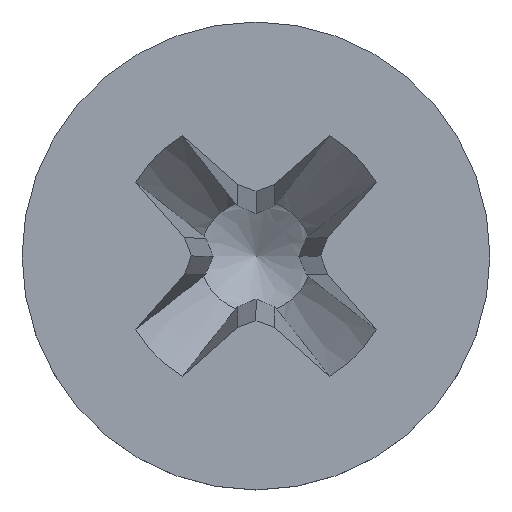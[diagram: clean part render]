
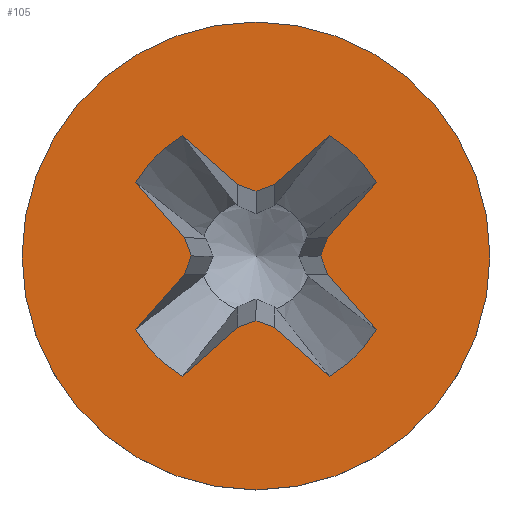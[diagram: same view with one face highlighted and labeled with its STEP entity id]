
A CAD part, top view. The second image highlights one B-rep face of the part: STEP entity #105.
In plain terms, the highlighted planar face has unit normal (0, 0, 1).
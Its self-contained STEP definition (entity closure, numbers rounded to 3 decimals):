
#21 = EDGE_CURVE('',#22,#22,#24,.T.);
#22 = VERTEX_POINT('',#23);
#23 = CARTESIAN_POINT('',(2.65,0.,0.));
#24 = CIRCLE('',#25,2.65);
#25 = AXIS2_PLACEMENT_3D('',#26,#27,#28);
#26 = CARTESIAN_POINT('',(0.,0.,0.));
#27 = DIRECTION('',(0.,0.,1.));
#28 = DIRECTION('',(1.,0.,0.));
#105 = ADVANCED_FACE('',(#106,#109),#275,.T.);
#106 = FACE_BOUND('',#107,.T.);
#107 = EDGE_LOOP('',(#108));
#108 = ORIENTED_EDGE('',*,*,#21,.T.);
#109 = FACE_BOUND('',#110,.T.);
#110 = EDGE_LOOP('',(#111,#121,#129,#137,#145,#154,#162,#170,#178,#186,
    #195,#203,#211,#219,#227,#236,#244,#252,#260,#268));
#111 = ORIENTED_EDGE('',*,*,#112,.T.);
#112 = EDGE_CURVE('',#113,#115,#117,.T.);
#113 = VERTEX_POINT('',#114);
#114 = CARTESIAN_POINT('',(0.835,-1.365,
    0.));
#115 = VERTEX_POINT('',#116);
#116 = CARTESIAN_POINT('',(0.205,-0.811,0.));
#117 = LINE('',#118,#119);
#118 = CARTESIAN_POINT('',(0.565,-1.127,0.));
#119 = VECTOR('',#120,1.);
#120 = DIRECTION('',(-0.751,0.661,0.));
#121 = ORIENTED_EDGE('',*,*,#122,.T.);
#122 = EDGE_CURVE('',#115,#123,#125,.T.);
#123 = VERTEX_POINT('',#124);
#124 = CARTESIAN_POINT('',(0.,-0.732,0.));
#125 = LINE('',#126,#127);
#126 = CARTESIAN_POINT('',(-0.077,-0.703,0.));
#127 = VECTOR('',#128,1.);
#128 = DIRECTION('',(-0.934,0.356,0.));
#129 = ORIENTED_EDGE('',*,*,#130,.T.);
#130 = EDGE_CURVE('',#123,#131,#133,.T.);
#131 = VERTEX_POINT('',#132);
#132 = CARTESIAN_POINT('',(-0.205,-0.811,0.));
#133 = LINE('',#134,#135);
#134 = CARTESIAN_POINT('',(0.077,-0.703,0.));
#135 = VECTOR('',#136,1.);
#136 = DIRECTION('',(-0.934,-0.356,0.));
#137 = ORIENTED_EDGE('',*,*,#138,.T.);
#138 = EDGE_CURVE('',#131,#139,#141,.T.);
#139 = VERTEX_POINT('',#140);
#140 = CARTESIAN_POINT('',(-0.835,-1.365,
    0.));
#141 = LINE('',#142,#143);
#142 = CARTESIAN_POINT('',(-0.565,-1.127,0.));
#143 = VECTOR('',#144,1.);
#144 = DIRECTION('',(-0.751,-0.661,0.));
#145 = ORIENTED_EDGE('',*,*,#146,.T.);
#146 = EDGE_CURVE('',#139,#147,#149,.T.);
#147 = VERTEX_POINT('',#148);
#148 = CARTESIAN_POINT('',(-1.365,-0.835,
    0.));
#149 = CIRCLE('',#150,1.6);
#150 = AXIS2_PLACEMENT_3D('',#151,#152,#153);
#151 = CARTESIAN_POINT('',(0.,0.,0.));
#152 = DIRECTION('',(0.,0.,-1.));
#153 = DIRECTION('',(1.,0.,0.));
#154 = ORIENTED_EDGE('',*,*,#155,.T.);
#155 = EDGE_CURVE('',#147,#156,#158,.T.);
#156 = VERTEX_POINT('',#157);
#157 = CARTESIAN_POINT('',(-0.811,-0.205,0.));
#158 = LINE('',#159,#160);
#159 = CARTESIAN_POINT('',(-1.127,-0.565,0.));
#160 = VECTOR('',#161,1.);
#161 = DIRECTION('',(0.661,0.751,0.));
#162 = ORIENTED_EDGE('',*,*,#163,.T.);
#163 = EDGE_CURVE('',#156,#164,#166,.T.);
#164 = VERTEX_POINT('',#165);
#165 = CARTESIAN_POINT('',(-0.732,0.,0.));
#166 = LINE('',#167,#168);
#167 = CARTESIAN_POINT('',(-0.703,0.077,0.));
#168 = VECTOR('',#169,1.);
#169 = DIRECTION('',(0.356,0.934,0.));
#170 = ORIENTED_EDGE('',*,*,#171,.T.);
#171 = EDGE_CURVE('',#164,#172,#174,.T.);
#172 = VERTEX_POINT('',#173);
#173 = CARTESIAN_POINT('',(-0.811,0.205,0.));
#174 = LINE('',#175,#176);
#175 = CARTESIAN_POINT('',(-0.703,-0.077,0.));
#176 = VECTOR('',#177,1.);
#177 = DIRECTION('',(-0.356,0.934,0.));
#178 = ORIENTED_EDGE('',*,*,#179,.T.);
#179 = EDGE_CURVE('',#172,#180,#182,.T.);
#180 = VERTEX_POINT('',#181);
#181 = CARTESIAN_POINT('',(-1.365,0.835,
    0.));
#182 = LINE('',#183,#184);
#183 = CARTESIAN_POINT('',(-1.127,0.565,0.));
#184 = VECTOR('',#185,1.);
#185 = DIRECTION('',(-0.661,0.751,0.));
#186 = ORIENTED_EDGE('',*,*,#187,.T.);
#187 = EDGE_CURVE('',#180,#188,#190,.T.);
#188 = VERTEX_POINT('',#189);
#189 = CARTESIAN_POINT('',(-0.835,1.365,0.));
#190 = CIRCLE('',#191,1.6);
#191 = AXIS2_PLACEMENT_3D('',#192,#193,#194);
#192 = CARTESIAN_POINT('',(0.,0.,0.));
#193 = DIRECTION('',(0.,0.,-1.));
#194 = DIRECTION('',(1.,0.,0.));
#195 = ORIENTED_EDGE('',*,*,#196,.T.);
#196 = EDGE_CURVE('',#188,#197,#199,.T.);
#197 = VERTEX_POINT('',#198);
#198 = CARTESIAN_POINT('',(-0.205,0.811,0.));
#199 = LINE('',#200,#201);
#200 = CARTESIAN_POINT('',(-0.565,1.127,0.));
#201 = VECTOR('',#202,1.);
#202 = DIRECTION('',(0.751,-0.661,0.));
#203 = ORIENTED_EDGE('',*,*,#204,.T.);
#204 = EDGE_CURVE('',#197,#205,#207,.T.);
#205 = VERTEX_POINT('',#206);
#206 = CARTESIAN_POINT('',(0.,0.732,0.));
#207 = LINE('',#208,#209);
#208 = CARTESIAN_POINT('',(0.077,0.703,0.));
#209 = VECTOR('',#210,1.);
#210 = DIRECTION('',(0.934,-0.356,0.));
#211 = ORIENTED_EDGE('',*,*,#212,.T.);
#212 = EDGE_CURVE('',#205,#213,#215,.T.);
#213 = VERTEX_POINT('',#214);
#214 = CARTESIAN_POINT('',(0.205,0.811,0.));
#215 = LINE('',#216,#217);
#216 = CARTESIAN_POINT('',(-0.077,0.703,0.));
#217 = VECTOR('',#218,1.);
#218 = DIRECTION('',(0.934,0.356,0.));
#219 = ORIENTED_EDGE('',*,*,#220,.T.);
#220 = EDGE_CURVE('',#213,#221,#223,.T.);
#221 = VERTEX_POINT('',#222);
#222 = CARTESIAN_POINT('',(0.835,1.365,
    0.));
#223 = LINE('',#224,#225);
#224 = CARTESIAN_POINT('',(0.565,1.127,0.));
#225 = VECTOR('',#226,1.);
#226 = DIRECTION('',(0.751,0.661,0.));
#227 = ORIENTED_EDGE('',*,*,#228,.T.);
#228 = EDGE_CURVE('',#221,#229,#231,.T.);
#229 = VERTEX_POINT('',#230);
#230 = CARTESIAN_POINT('',(1.365,0.835,
    0.));
#231 = CIRCLE('',#232,1.6);
#232 = AXIS2_PLACEMENT_3D('',#233,#234,#235);
#233 = CARTESIAN_POINT('',(0.,0.,0.));
#234 = DIRECTION('',(0.,0.,-1.));
#235 = DIRECTION('',(1.,0.,0.));
#236 = ORIENTED_EDGE('',*,*,#237,.T.);
#237 = EDGE_CURVE('',#229,#238,#240,.T.);
#238 = VERTEX_POINT('',#239);
#239 = CARTESIAN_POINT('',(0.811,0.205,0.));
#240 = LINE('',#241,#242);
#241 = CARTESIAN_POINT('',(1.127,0.565,0.));
#242 = VECTOR('',#243,1.);
#243 = DIRECTION('',(-0.661,-0.751,0.));
#244 = ORIENTED_EDGE('',*,*,#245,.T.);
#245 = EDGE_CURVE('',#238,#246,#248,.T.);
#246 = VERTEX_POINT('',#247);
#247 = CARTESIAN_POINT('',(0.732,0.,0.));
#248 = LINE('',#249,#250);
#249 = CARTESIAN_POINT('',(0.703,-0.077,
    0.));
#250 = VECTOR('',#251,1.);
#251 = DIRECTION('',(-0.356,-0.934,0.));
#252 = ORIENTED_EDGE('',*,*,#253,.T.);
#253 = EDGE_CURVE('',#246,#254,#256,.T.);
#254 = VERTEX_POINT('',#255);
#255 = CARTESIAN_POINT('',(0.811,-0.205,0.));
#256 = LINE('',#257,#258);
#257 = CARTESIAN_POINT('',(0.703,0.077,
    0.));
#258 = VECTOR('',#259,1.);
#259 = DIRECTION('',(0.356,-0.934,0.));
#260 = ORIENTED_EDGE('',*,*,#261,.T.);
#261 = EDGE_CURVE('',#254,#262,#264,.T.);
#262 = VERTEX_POINT('',#263);
#263 = CARTESIAN_POINT('',(1.365,-0.835,
    0.));
#264 = LINE('',#265,#266);
#265 = CARTESIAN_POINT('',(1.127,-0.565,0.));
#266 = VECTOR('',#267,1.);
#267 = DIRECTION('',(0.661,-0.751,0.));
#268 = ORIENTED_EDGE('',*,*,#269,.T.);
#269 = EDGE_CURVE('',#262,#113,#270,.T.);
#270 = CIRCLE('',#271,1.6);
#271 = AXIS2_PLACEMENT_3D('',#272,#273,#274);
#272 = CARTESIAN_POINT('',(0.,0.,0.));
#273 = DIRECTION('',(0.,0.,-1.));
#274 = DIRECTION('',(1.,0.,0.));
#275 = PLANE('',#276);
#276 = AXIS2_PLACEMENT_3D('',#277,#278,#279);
#277 = CARTESIAN_POINT('',(0.,0.,0.));
#278 = DIRECTION('',(0.,0.,1.));
#279 = DIRECTION('',(1.,0.,0.));
